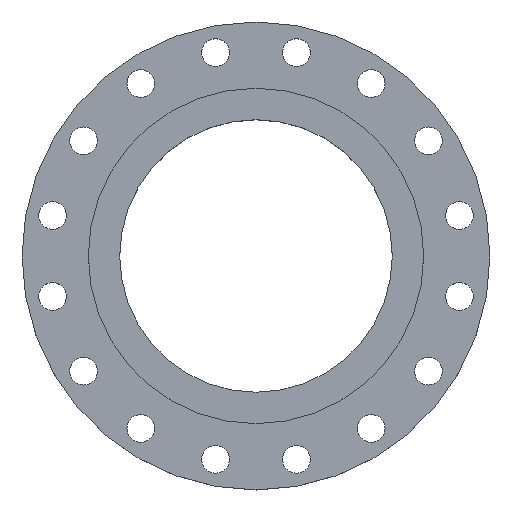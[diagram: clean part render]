
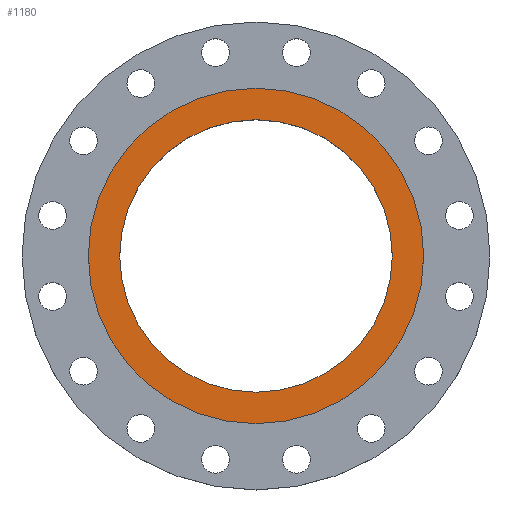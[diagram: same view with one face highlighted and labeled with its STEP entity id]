
A CAD part, top view. The second image highlights one B-rep face of the part: STEP entity #1180.
In plain terms, the highlighted planar face has unit normal (0, 0, 1).
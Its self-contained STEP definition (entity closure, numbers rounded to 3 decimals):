
#17 = DIRECTION ( 'NONE',  ( -1., 0., 0. ) ) ;
#18 = DIRECTION ( 'NONE',  ( 0., 0., -1. ) ) ;
#19 = CARTESIAN_POINT ( 'NONE',  ( 0., 0., 0. ) ) ;
#168 = EDGE_CURVE ( 'NONE', #1032, #1100, #540, .T. ) ;
#218 = DIRECTION ( 'NONE',  ( 1., 0., 0. ) ) ;
#219 = DIRECTION ( 'NONE',  ( 0., 0., 1. ) ) ;
#220 = CARTESIAN_POINT ( 'NONE',  ( 0., 0., 0. ) ) ;
#221 = PLANE ( 'NONE',  #1255 ) ;
#223 = FACE_OUTER_BOUND ( 'NONE', #988, .T. ) ;
#224 = FACE_BOUND ( 'NONE', #919, .T. ) ;
#301 = CIRCLE ( 'NONE', #1019, 236.5 ) ;
#316 = CARTESIAN_POINT ( 'NONE',  ( -236.5, 0., 0. ) ) ;
#396 = CARTESIAN_POINT ( 'NONE',  ( 236.5, 0., 0. ) ) ;
#413 = CARTESIAN_POINT ( 'NONE',  ( 192.2, 0., 0. ) ) ;
#431 = EDGE_CURVE ( 'NONE', #1016, #983, #893, .T. ) ;
#472 = CARTESIAN_POINT ( 'NONE',  ( -192.2, 0., 0. ) ) ;
#529 = DIRECTION ( 'NONE',  ( -1., 0., 0. ) ) ;
#530 = DIRECTION ( 'NONE',  ( 0., 0., -1. ) ) ;
#532 = CARTESIAN_POINT ( 'NONE',  ( 0., 0., 0. ) ) ;
#540 = CIRCLE ( 'NONE', #545, 236.5 ) ;
#545 = AXIS2_PLACEMENT_3D ( 'NONE', #804, #802, #801 ) ;
#731 = DIRECTION ( 'NONE',  ( -1., 0., 0. ) ) ;
#732 = DIRECTION ( 'NONE',  ( 0., 0., -1. ) ) ;
#734 = CARTESIAN_POINT ( 'NONE',  ( 0., 0., 0. ) ) ;
#801 = DIRECTION ( 'NONE',  ( -1., 0., 0. ) ) ;
#802 = DIRECTION ( 'NONE',  ( 0., 0., -1. ) ) ;
#804 = CARTESIAN_POINT ( 'NONE',  ( 0., 0., 0. ) ) ;
#876 = EDGE_CURVE ( 'NONE', #1100, #1032, #301, .T. ) ;
#893 = CIRCLE ( 'NONE', #918, 192.2 ) ;
#918 = AXIS2_PLACEMENT_3D ( 'NONE', #734, #732, #731 ) ;
#919 = EDGE_LOOP ( 'NONE', ( #1560, #1562 ) ) ;
#983 = VERTEX_POINT ( 'NONE', #472 ) ;
#988 = EDGE_LOOP ( 'NONE', ( #1564, #1567 ) ) ;
#1016 = VERTEX_POINT ( 'NONE', #413 ) ;
#1019 = AXIS2_PLACEMENT_3D ( 'NONE', #532, #530, #529 ) ;
#1032 = VERTEX_POINT ( 'NONE', #396 ) ;
#1100 = VERTEX_POINT ( 'NONE', #316 ) ;
#1180 = ADVANCED_FACE ( 'NONE', ( #224, #223 ), #221, .T. ) ;
#1255 = AXIS2_PLACEMENT_3D ( 'NONE', #220, #219, #218 ) ;
#1411 = EDGE_CURVE ( 'NONE', #983, #1016, #1608, .T. ) ;
#1560 = ORIENTED_EDGE ( 'NONE', *, *, #1411, .T. ) ;
#1562 = ORIENTED_EDGE ( 'NONE', *, *, #431, .T. ) ;
#1564 = ORIENTED_EDGE ( 'NONE', *, *, #876, .F. ) ;
#1567 = ORIENTED_EDGE ( 'NONE', *, *, #168, .F. ) ;
#1608 = CIRCLE ( 'NONE', #1613, 192.2 ) ;
#1613 = AXIS2_PLACEMENT_3D ( 'NONE', #19, #18, #17 ) ;
